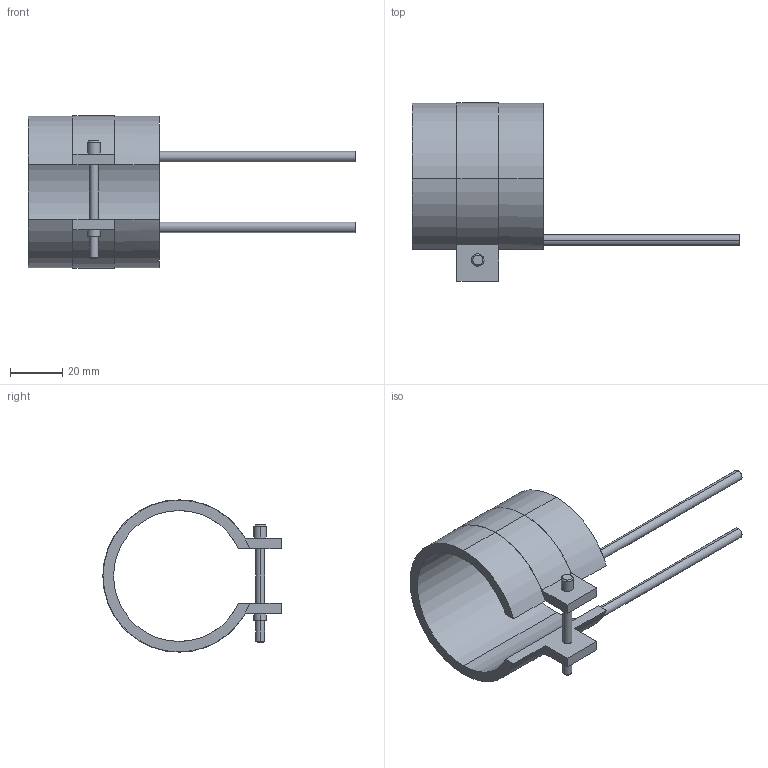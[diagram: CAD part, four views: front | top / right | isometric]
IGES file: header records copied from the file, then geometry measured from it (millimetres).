
Start section: START RECORD GO HERE.
Global section: file name: 14050050.igs; native system: DASSAULT SYSTEMES CATIA V5 R20 - www.3ds.com; preprocessor: CATIA Version 5 Release 20 ; author: Utente; organization: NB04-ASUS; date: 20210331.140546; units: millimetre
Bounding box: 125 x 68.1 x 58.2 mm (x, y, z)
Surface area: 19762.1 mm2 (no closed solid volume)
Topology: 0 solids, 0 shells, 45 faces, 232 edges, 232 vertices
Faces by surface type: revolution 28, plane 17
